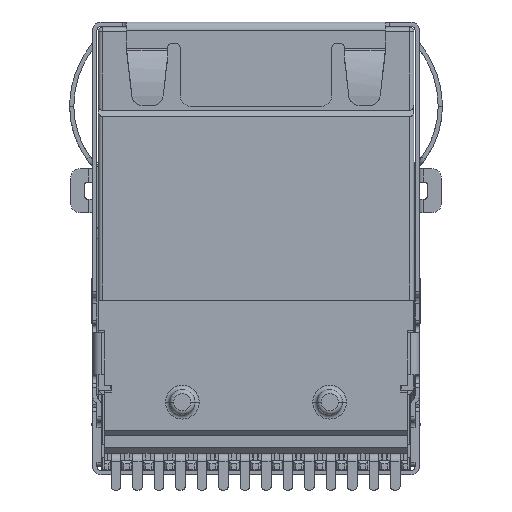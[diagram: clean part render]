
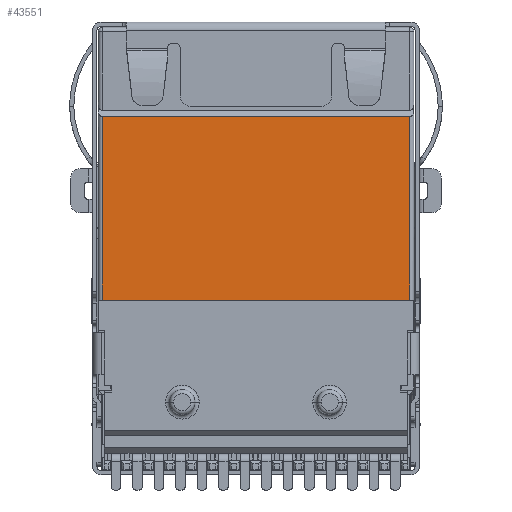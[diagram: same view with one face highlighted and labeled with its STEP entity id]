
A CAD part, front view. The second image highlights one B-rep face of the part: STEP entity #43551.
In plain terms, the highlighted planar face has unit normal (0, -1, 0).
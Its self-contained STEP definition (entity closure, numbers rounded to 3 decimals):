
#13054=DIRECTION('',(-1.,0.,0.));
#13055=VECTOR('',#13054,14.6);
#13056=CARTESIAN_POINT('',(7.3,0.,-4.25));
#13057=LINE('',#13056,#13055);
#13066=DIRECTION('',(0.,0.,-1.));
#13067=VECTOR('',#13066,8.7);
#13068=CARTESIAN_POINT('',(-7.3,0.,-4.25));
#13069=LINE('',#13068,#13067);
#13074=DIRECTION('',(-1.,0.,0.));
#13075=VECTOR('',#13074,14.6);
#13076=CARTESIAN_POINT('',(7.3,0.,-12.95));
#13077=LINE('',#13076,#13075);
#13078=DIRECTION('',(0.,0.,1.));
#13079=VECTOR('',#13078,8.7);
#13080=CARTESIAN_POINT('',(7.3,0.,-12.95));
#13081=LINE('',#13080,#13079);
#21296=CARTESIAN_POINT('',(7.3,0.,-12.95));
#21297=VERTEX_POINT('',#21296);
#21298=CARTESIAN_POINT('',(-7.3,0.,-12.95));
#21299=VERTEX_POINT('',#21298);
#22243=CARTESIAN_POINT('',(7.3,0.,-4.25));
#22244=VERTEX_POINT('',#22243);
#22245=CARTESIAN_POINT('',(-7.3,0.,-4.25));
#22246=VERTEX_POINT('',#22245);
#43539=CARTESIAN_POINT('',(0.,0.,-8.6));
#43540=DIRECTION('',(0.,1.,0.));
#43541=DIRECTION('',(0.,0.,-1.));
#43542=AXIS2_PLACEMENT_3D('',#43539,#43540,#43541);
#43543=PLANE('',#43542);
#43544=ORIENTED_EDGE('',*,*,#43532,.F.);
#43545=ORIENTED_EDGE('',*,*,#43521,.F.);
#43547=ORIENTED_EDGE('',*,*,#43546,.F.);
#43548=ORIENTED_EDGE('',*,*,#28713,.T.);
#43549=EDGE_LOOP('',(#43544,#43545,#43547,#43548));
#43550=FACE_OUTER_BOUND('',#43549,.F.);
#43551=ADVANCED_FACE('',(#43550),#43543,.F.);
#28713=EDGE_CURVE('',#21297,#21299,#13077,.T.);
#43521=EDGE_CURVE('',#22244,#22246,#13057,.T.);
#43532=EDGE_CURVE('',#22246,#21299,#13069,.T.);
#43546=EDGE_CURVE('',#21297,#22244,#13081,.T.);
